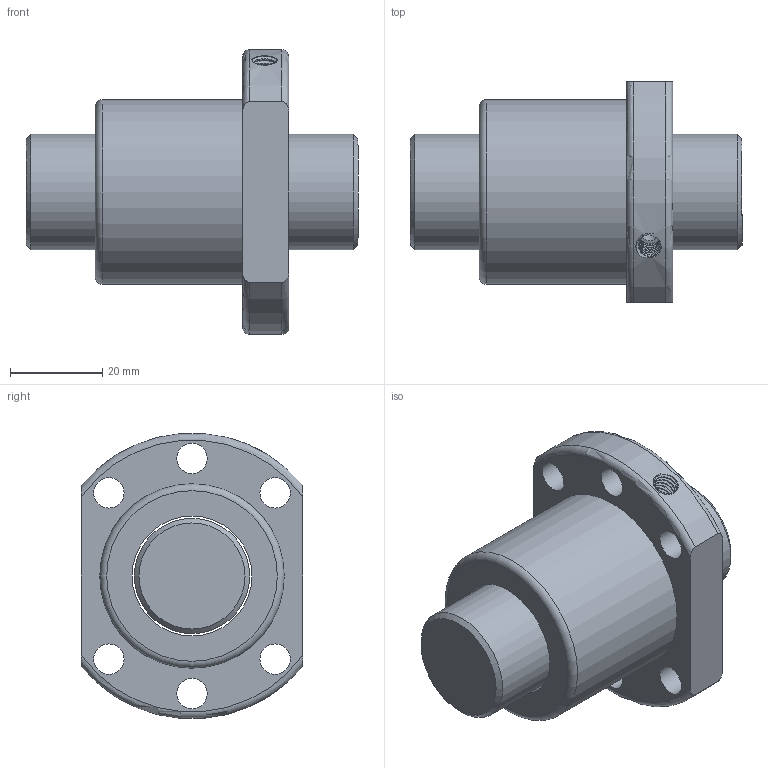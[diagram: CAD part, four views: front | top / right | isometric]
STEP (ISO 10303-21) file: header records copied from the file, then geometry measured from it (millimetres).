
FILE_DESCRIPTION (( 'STEP AP203' ), '1' );
FILE_NAME ('SFU02504.STEP', '2023-08-16T01:58:23', ( '' ), ( '' ), 'SwSTEP 2.0', 'SolidWorks 2022', '' );
FILE_SCHEMA (( 'CONFIG_CONTROL_DESIGN' ));
Length unit declared in the file: millimetre
Products named in the file (1): SFU02504
Bounding box: 72 x 48 x 61.8 mm (x, y, z)
Volume: 77075 mm3; surface area: 21026.6 mm2
Topology: 2 solids, 2 shells, 31 faces, 73 edges, 48 vertices
Faces by surface type: cylinder 14, plane 8, torus 5, cone 2, bspline 2
Full cylindrical faces by diameter (mm): 4 x1, 6.6 x6, 25 x1, 26 x1, 40 x1
Entity records: 3072 total; most frequent: CARTESIAN_POINT 2324, DIRECTION 132, ORIENTED_EDGE 118, AXIS2_PLACEMENT_3D 62, EDGE_LOOP 62, EDGE_CURVE 59, VERTEX_POINT 47, FACE_OUTER_BOUND 42
